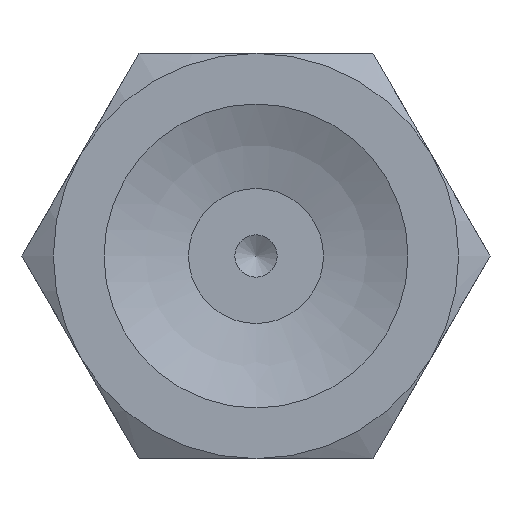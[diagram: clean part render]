
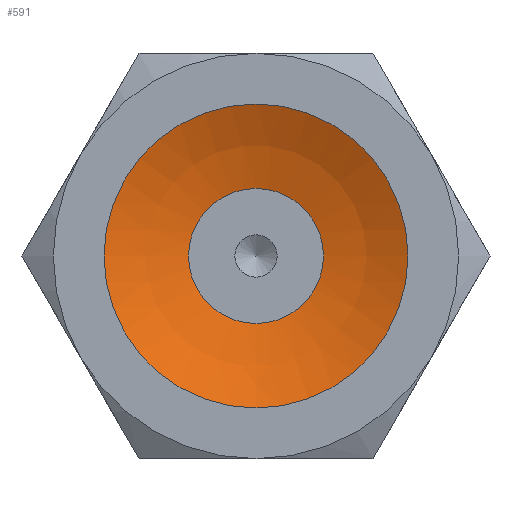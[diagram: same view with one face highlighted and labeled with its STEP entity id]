
A CAD part, front view. The second image highlights one B-rep face of the part: STEP entity #591.
In plain terms, the highlighted spherical face has radius 10.203 mm.
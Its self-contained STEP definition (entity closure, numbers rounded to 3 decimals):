
#591=ADVANCED_FACE('',(#930,#931),#932,.F.);
#930=FACE_OUTER_BOUND('',#1288,.T.);
#931=FACE_OUTER_BOUND('',#1289,.T.);
#932=SPHERICAL_SURFACE('',#1290,10.203);
#1288=EDGE_LOOP('',(#2229));
#1289=EDGE_LOOP('',(#2230));
#1290=AXIS2_PLACEMENT_3D('',#2231,#2232,#2233);
#2229=ORIENTED_EDGE('',*,*,#2536,.T.);
#2230=ORIENTED_EDGE('',*,*,#2527,.F.);
#2231=CARTESIAN_POINT('',(0.,-9.157,0.));
#2232=DIRECTION('',(0.0,-1.0,0.));
#2233=DIRECTION('',(1.0,0.0,0.0));
#2527=EDGE_CURVE('',#2955,#2955,#2956,.T.);
#2536=EDGE_CURVE('',#2973,#2973,#2974,.T.);
#2955=VERTEX_POINT('',#4013);
#2956=CIRCLE('',#4014,2.);
#2973=VERTEX_POINT('',#4031);
#2974=CIRCLE('',#4032,4.5);
#4013=CARTESIAN_POINT('',(0.0,0.848,-2.));
#4014=AXIS2_PLACEMENT_3D('',#4390,#4391,#4392);
#4031=CARTESIAN_POINT('',(0.0,0.,-4.5));
#4032=AXIS2_PLACEMENT_3D('',#4417,#4418,#4419);
#4390=CARTESIAN_POINT('',(0.0,0.848,0.0));
#4391=DIRECTION('',(0.0,-1.0,0.));
#4392=DIRECTION('',(0.0,0.,-1.0));
#4417=CARTESIAN_POINT('',(0.0,0.,0.0));
#4418=DIRECTION('',(0.0,-1.0,0.));
#4419=DIRECTION('',(0.0,0.,-1.0));
